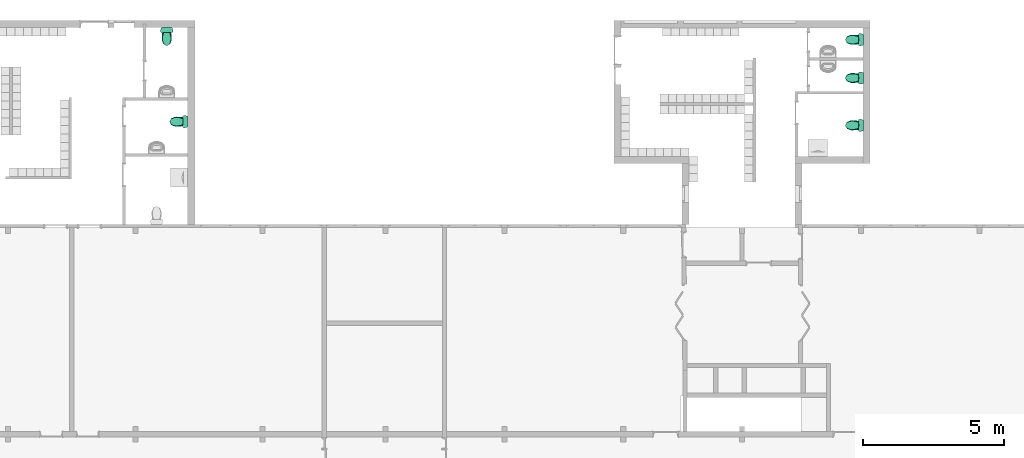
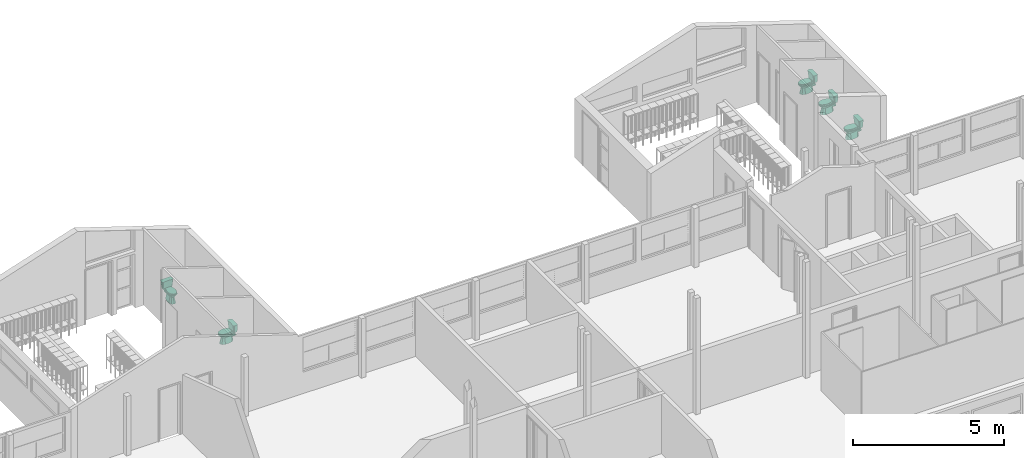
# One storey, part 38 of 48: 5 distribution flow elements.
"""IFC2X3 building model written with IfcOpenShell, lengths in millimetres."""

import ifcopenshell
import ifcopenshell.guid

model = None  # the IFC model being written
_history = None  # IfcOwnerHistory: only IFC2X3 demands one
_inside = {}  # id of a spatial element -> (the spatial element, [elements in it])
_under = {}  # id of a project, library or spatial element -> (it, [spatial elements below it])
_declared = {}  # id of a project -> (the project, [libraries it declares])
_typed = {}  # id of a type object -> (the type object, [elements of that type])
_made_of = {}  # id of a material, layer set ... -> (it, [elements and type objects made of it])


def new_model(schema):
    """Start an empty IFC model of exactly this schema.

    Asked for "IFC4X3", IfcOpenShell would pick the latest addendum, in which some entities
    have other attributes; the version numbers below select the first issue.
    IFC2X3 requires an IfcOwnerHistory on every rooted entity: one is made here for all.
    """
    global model, _history
    if schema == "IFC4X3":
        model = ifcopenshell.file(schema_version=(4, 3, 0, 0))
    else:
        model = ifcopenshell.file(schema=schema)
    _inside.clear()
    _under.clear()
    _declared.clear()
    _typed.clear()
    _made_of.clear()
    _history = None
    if model.schema == "IFC2X3":
        org = make("IfcOrganization", Name="unknown")
        user = make(
            "IfcPersonAndOrganization",
            ThePerson=make("IfcPerson", FamilyName="unknown"),
            TheOrganization=org,
        )
        app = make(
            "IfcApplication",
            ApplicationDeveloper=org,
            Version="unknown",
            ApplicationFullName="unknown",
            ApplicationIdentifier="unknown",
        )
        _history = make(
            "IfcOwnerHistory",
            OwningUser=user,
            OwningApplication=app,
            ChangeAction="ADDED",
            CreationDate=0,
        )
    return model


def make(cls, **values):
    """One entity of the class cls with the attributes given. An attribute that is None is left unset."""
    return model.create_entity(
        cls, **{name: value for name, value in values.items() if value is not None}
    )


def entity(cls, *values):
    """Any entity or typed value of the class cls, its attributes in the order of the schema. None: left unset."""
    e = model.create_entity(cls)
    for i, value in enumerate(values):
        if value is not None:
            e[i] = value
    return e


def rooted(cls, **values):
    """An entity with a GlobalId (a new one), such as an element, a storey or a relation."""
    return make(cls, GlobalId=ifcopenshell.guid.new(), OwnerHistory=_history, **values)


def si_unit(unit_type, name, prefix=None):
    """IfcSIUnit, for example si_unit("LENGTHUNIT", "METRE", prefix="MILLI")."""
    return make("IfcSIUnit", UnitType=unit_type, Prefix=prefix, Name=name)


def converted_unit(unit_type, name, factor, base, dimensions=None, offset=None):
    """IfcConversionBasedUnit, such as the inch: factor (a typed value) times the base unit."""
    return make(
        "IfcConversionBasedUnit"
        if offset is None
        else "IfcConversionBasedUnitWithOffset",
        ConversionOffset=offset,
        Dimensions=None
        if dimensions is None
        else entity("IfcDimensionalExponents", *dimensions),
        UnitType=unit_type,
        Name=name,
        ConversionFactor=make(
            "IfcMeasureWithUnit", ValueComponent=factor, UnitComponent=base
        ),
    )


def derived_unit(unit_type, elements):
    """IfcDerivedUnit: a product of units, each with its exponent."""
    return make(
        "IfcDerivedUnit",
        Elements=[
            make("IfcDerivedUnitElement", Unit=unit, Exponent=power)
            for unit, power in elements
        ],
        UnitType=unit_type,
    )


def money_unit(currency):
    """IfcMonetaryUnit."""
    return make("IfcMonetaryUnit", Currency=currency)


def assignment(units):
    """IfcUnitAssignment: the units of a project."""
    return None if units is None else make("IfcUnitAssignment", Units=units)


def point(xyz):
    """IfcCartesianPoint."""
    return None if xyz is None else make("IfcCartesianPoint", Coordinates=xyz)


def direction(xyz):
    """IfcDirection."""
    return None if xyz is None else make("IfcDirection", DirectionRatios=xyz)


def frame(location, z_axis=None, x_axis=None):
    """IfcAxis2Placement3D, a coordinate frame: its origin and axes. An axis left out is left unset."""
    return make(
        "IfcAxis2Placement3D",
        Location=point(location),
        Axis=direction(z_axis),
        RefDirection=direction(x_axis),
    )


def origin_with_axes():
    """The frame at (0, 0, 0) with the z axis (0, 0, 1) and the x axis (1, 0, 0) written out."""
    return frame((0.0, 0.0, 0.0), z_axis=(0.0, 0.0, 1.0), x_axis=(1.0, 0.0, 0.0))


def place(relative_to, where):
    """IfcLocalPlacement: puts the frame where relative to a parent placement (None: the world)."""
    return make(
        "IfcLocalPlacement", PlacementRelTo=relative_to, RelativePlacement=where
    )


def context(
    kind, dimensions, precision=None, world=None, true_north=None, identifier=None
):
    """IfcGeometricRepresentationContext, for example the 3D "Model" context."""
    return make(
        "IfcGeometricRepresentationContext",
        ContextIdentifier=identifier,
        ContextType=kind,
        CoordinateSpaceDimension=dimensions,
        Precision=precision,
        WorldCoordinateSystem=world,
        TrueNorth=true_north,
    )


def subcontext(parent, identifier, kind, view, scale=None):
    """IfcGeometricRepresentationSubContext, for example "Body" below "Model"."""
    return make(
        "IfcGeometricRepresentationSubContext",
        ContextIdentifier=identifier,
        ContextType=kind,
        ParentContext=parent,
        TargetScale=scale,
        TargetView=view,
    )


def project(units=None, contexts=None):
    """IfcProject with its units and contexts."""
    return rooted(
        "IfcProject",
        Name="project",
        RepresentationContexts=contexts,
        UnitsInContext=assignment(units),
    )


def spatial(cls, under=None, at=None, **own):
    """A site, building, storey or space (cls), placed at a placement, below another one or the project."""
    s = rooted(cls, ObjectPlacement=at, **own)
    if under is not None:
        _under.setdefault(under.id(), (under, []))[1].append(s)
    return s


def faces_of(points, faces, orient=None, outer=None):
    """IfcFace entities. A face is a list of loops; a loop is a list of indices into points, from 0.

    orient and outer hold one flag for each loop. By default every Orientation is true, the
    first loop of a face is its IfcFaceOuterBound and the others are IfcFaceBound.
    """
    made = []
    for i, loops in enumerate(faces):
        bounds = []
        for j, loop in enumerate(loops):
            is_outer = j == 0 if outer is None else outer[i][j]
            bounds.append(
                make(
                    "IfcFaceOuterBound" if is_outer else "IfcFaceBound",
                    Bound=make("IfcPolyLoop", Polygon=[points[k] for k in loop]),
                    Orientation=True if orient is None else orient[i][j],
                )
            )
        made.append(make("IfcFace", Bounds=bounds))
    return made


def open_shell(faces, orient=None, outer=None):
    """The faces of one IfcOpenShell. surface_model builds it on its shared points."""
    return ("IfcOpenShell", faces, orient, outer)


def faceted_brep(points, faces, orient=None, outer=None, voids=None):
    """IfcFacetedBrep: a solid bounded by flat faces; with voids (closed shells), ...WithVoids."""
    shared = [point(p) for p in points]
    hull = make("IfcClosedShell", CfsFaces=faces_of(shared, faces, orient, outer))
    if voids is None:
        return make("IfcFacetedBrep", Outer=hull)
    return make(
        "IfcFacetedBrepWithVoids",
        Outer=hull,
        Voids=[
            make(cls, CfsFaces=faces_of(shared, fs, o, b)) for cls, fs, o, b in voids
        ],
    )


def surface_model(cls, points, shells):
    """IfcFaceBasedSurfaceModel or IfcShellBasedSurfaceModel (cls): surfaces that need not close."""
    shared = [point(p) for p in points]
    made = [make(c, CfsFaces=faces_of(shared, fs, o, b)) for c, fs, o, b in shells]
    if cls == "IfcFaceBasedSurfaceModel":
        return make(cls, FbsmFaces=made)
    return make(cls, SbsmBoundary=made)


def shape(context_of_items, identifier, shape_type, items):
    """IfcShapeRepresentation: the items that make up one representation, for example the "Body"."""
    return make(
        "IfcShapeRepresentation",
        ContextOfItems=context_of_items,
        RepresentationIdentifier=identifier,
        RepresentationType=shape_type,
        Items=items,
    )


def source(mapping_origin, context_of_items, identifier, shape_type, items):
    """IfcRepresentationMap: a shape defined once, which mapped items show again and again."""
    return make(
        "IfcRepresentationMap",
        MappingOrigin=mapping_origin,
        MappedRepresentation=shape(context_of_items, identifier, shape_type, items),
    )


def transform(
    local_origin,
    x_axis=None,
    y_axis=None,
    z_axis=None,
    scale=None,
    scale2=None,
    scale3=None,
    uniform=True,
):
    """IfcCartesianTransformationOperator3D, or its non-uniform kind. x_axis, y_axis, z_axis: its Axis1, 2, 3."""
    if uniform:
        return make(
            "IfcCartesianTransformationOperator3D",
            Axis1=direction(x_axis),
            Axis2=direction(y_axis),
            LocalOrigin=point(local_origin),
            Scale=scale,
            Axis3=direction(z_axis),
        )
    return make(
        "IfcCartesianTransformationOperator3DnonUniform",
        Axis1=direction(x_axis),
        Axis2=direction(y_axis),
        LocalOrigin=point(local_origin),
        Scale=scale,
        Axis3=direction(z_axis),
        Scale2=scale2,
        Scale3=scale3,
    )


def mapped(mapping_source, mapping_target):
    """IfcMappedItem: shows the shape of a source again, moved by a transform."""
    return make(
        "IfcMappedItem", MappingSource=mapping_source, MappingTarget=mapping_target
    )


def made_of(thing, what):
    """Note that an element or type object is made of a material, layer set ...; save() writes the relation."""
    if what is not None:
        _made_of.setdefault(what.id(), (what, []))[1].append(thing)
    return thing


def type_object(cls, material=None, **own):
    """A type object (cls), such as IfcWallType, which elements share."""
    return made_of(rooted(cls, **own), material)


def element(
    cls,
    number,
    at=None,
    inside=None,
    cuts=None,
    type_object=None,
    material=None,
    context=None,
    identifier="Body",
    shape_type=None,
    held_by="IfcProductDefinitionShape",
    body=None,
    shapes=None,
    **own,
):
    """One element of the class cls, such as IfcWall. Its Tag is "e" and its number.

    at: its placement. inside: the storey or other place that contains it. cuts: it is an
    opening in that element (IfcRelVoidsElement). A single representation is given by context,
    identifier, shape_type and body (its items); several are given by shapes. held_by: the class
    of the entity that holds the representations. save() writes the other relations.
    """
    e = rooted(cls, Tag="e%d" % number, ObjectPlacement=at, **own)
    if body is not None:
        shapes = [shape(context, identifier, shape_type, body)]
    if shapes is not None:
        e.Representation = make(held_by, Representations=shapes)
    if inside is not None:
        _inside.setdefault(inside.id(), (inside, []))[1].append(e)
    if cuts is not None:
        rooted(
            "IfcRelVoidsElement", RelatingBuildingElement=cuts, RelatedOpeningElement=e
        )
    if type_object is not None:
        _typed.setdefault(type_object.id(), (type_object, []))[1].append(e)
    return made_of(e, material)


def aggregate(whole, parts):
    """IfcRelAggregates: a whole, such as a stair, and the parts it consists of."""
    return rooted("IfcRelAggregates", RelatingObject=whole, RelatedObjects=parts)


def save(model, path):
    """Write the relations noted so far, then the file.

    IfcRelAggregates (storeys below a building ...), IfcRelContainedInSpatialStructure (elements
    in a storey), IfcRelDefinesByType, IfcRelAssociatesMaterial and IfcRelDeclares: one each for
    every whole, place, type object, material and project.
    """
    for whole, parts in _under.values():
        aggregate(whole, parts)
    for where, things in _inside.values():
        rooted(
            "IfcRelContainedInSpatialStructure",
            RelatedElements=things,
            RelatingStructure=where,
        )
    for kind, things in _typed.values():
        rooted("IfcRelDefinesByType", RelatedObjects=things, RelatingType=kind)
    for what, things in _made_of.values():
        rooted("IfcRelAssociatesMaterial", RelatedObjects=things, RelatingMaterial=what)
    for by, libraries in _declared.values():
        rooted("IfcRelDeclares", RelatingContext=by, RelatedDefinitions=libraries)
    model.write(path)


model = new_model("IFC2X3")

# Units and contexts
model_context = context("Model", 3, precision=0.01, world=origin_with_axes(), true_north=direction((0.0, 1.0)))
body_context = subcontext(model_context, "Body", "Model", "MODEL_VIEW")
ifc_project = project(units=[si_unit("LENGTHUNIT", "METRE", prefix="MILLI"), si_unit("AREAUNIT", "SQUARE_METRE"), si_unit("VOLUMEUNIT", "CUBIC_METRE"), converted_unit("PLANEANGLEUNIT", "DEGREE", entity("IfcPlaneAngleMeasure", 0.0174532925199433), si_unit("PLANEANGLEUNIT", "RADIAN"), dimensions=[0, 0, 0, 0, 0, 0, 0]), money_unit("USD"), converted_unit("TIMEUNIT", "Year", entity("IfcTimeMeasure", 31557600.0), si_unit("TIMEUNIT", "SECOND"), dimensions=[0, 0, 1, 0, 0, 0, 0]), si_unit("MASSUNIT", "GRAM", prefix="KILO"), si_unit("THERMODYNAMICTEMPERATUREUNIT", "DEGREE_CELSIUS"), si_unit("LUMINOUSINTENSITYUNIT", "LUMEN"), si_unit("ENERGYUNIT", "JOULE", prefix="MEGA"), derived_unit("THERMALCONDUCTANCEUNIT", [(si_unit("POWERUNIT", "WATT"), 1), (si_unit("LENGTHUNIT", "METRE"), -1), (si_unit("THERMODYNAMICTEMPERATUREUNIT", "KELVIN"), -1)]), derived_unit("SPECIFICHEATCAPACITYUNIT", [(si_unit("ENERGYUNIT", "JOULE"), 1), (si_unit("MASSUNIT", "GRAM", prefix="KILO"), -1), (si_unit("THERMODYNAMICTEMPERATUREUNIT", "KELVIN"), -1)]), derived_unit("MASSDENSITYUNIT", [(si_unit("MASSUNIT", "GRAM", prefix="KILO"), 1), (si_unit("VOLUMEUNIT", "CUBIC_METRE"), -1)])], contexts=[model_context])

# Site, building, storey
site_placement = place(None, origin_with_axes())
site = spatial("IfcSite", under=ifc_project, at=site_placement, Name="Site", CompositionType="ELEMENT")
building_placement = place(site_placement, origin_with_axes())
building = spatial("IfcBuilding", under=site, at=building_placement, Name="Building", CompositionType="ELEMENT")
storey_placement = place(building_placement, frame((0.0, 0.0, 3300.0), z_axis=(0.0, 0.0, 1.0), x_axis=(1.0, 0.0, 0.0)))
storey = spatial("IfcBuildingStorey", under=building, at=storey_placement, Name="1 ETG", CompositionType="ELEMENT", Elevation=3300.0)

# Distribution flow elements
valve_type = type_object("IfcValveType", Name="WC", PredefinedType="USERDEFINED")
shared_shape = source(origin_with_axes(), body_context, "Body", "SurfaceModel", [
    faceted_brep([(-40.30508652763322, -205.7142857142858, 245.4332916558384), (-57.0, -205.7142857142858, 205.1282051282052), (-40.30508652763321, -205.7142857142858, 164.823118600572), (0.0, -205.7142857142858, 148.1282051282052), (40.30508652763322, -205.7142857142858, 164.823118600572), (57.00000000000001, -205.7142857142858, 205.1282051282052), (40.30508652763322, -205.7142857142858, 245.4332916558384), (0.0, -205.7142857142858, 262.1282051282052), (-40.30508652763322, 0.0, 245.4332916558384), (-57.0, 0.0, 205.1282051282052), (-40.30508652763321, 0.0, 164.823118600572), (0.0, 0.0, 148.1282051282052), (40.30508652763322, 0.0, 164.823118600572), (57.00000000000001, 0.0, 205.1282051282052), (40.30508652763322, 0.0, 245.4332916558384), (0.0, 0.0, 262.1282051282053)], [[[0, 1, 2, 3, 4, 5, 6, 7]], [[0, 8, 9, 1]], [[1, 9, 10, 2]], [[2, 10, 11, 3]], [[3, 11, 12, 4]], [[4, 12, 13, 5]], [[5, 13, 14, 6]], [[6, 14, 15, 7]], [[7, 15, 8, 0]], [[8, 15, 14, 13, 12, 11, 10, 9]]]),
    surface_model("IfcShellBasedSurfaceModel", [(-84.12941176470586, -541.2264773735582, 0.0), (-75.02254901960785, -425.689157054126, 235.8974358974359), (-123.3490196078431, -435.6917834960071, 0.0), (-47.80882352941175, -502.9639041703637, 235.8974358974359), (-71.04803921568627, -309.5589707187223, 235.8974358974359), (-120.4490196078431, -307.7678793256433, 0.0), (-95.01078431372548, -164.0364862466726, 0.0), (-31.65098039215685, -85.44312333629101, 0.0), (31.65098039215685, -85.44312333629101, 0.0), (95.01078431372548, -164.0364862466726, 0.0), (120.4490196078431, -307.7678793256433, 0.0), (123.3490196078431, -435.6917834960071, 0.0), (84.12941176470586, -541.2264773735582, 0.0), (0.0, -584.3319254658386, 0.0), (-41.58039215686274, -153.6, 235.8974358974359), (-13.7156862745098, -119.9417923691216, 235.8974358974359), (13.7156862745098, -119.9417923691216, 235.8974358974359), (41.58039215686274, -153.6, 235.8974358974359), (71.04803921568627, -309.5589707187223, 235.8974358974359), (75.02254901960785, -425.689157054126, 235.8974358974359), (47.80882352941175, -502.9639041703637, 235.8974358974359), (0.0, -527.4599467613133, 235.8974358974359)], [open_shell([[[0, 1, 2]], [[0, 3, 1]], [[2, 1, 4]], [[0, 2, 5, 6, 7, 8, 9, 10, 11, 12, 13]], [[13, 3, 0]], [[2, 4, 5]], [[5, 14, 6]], [[6, 15, 7]], [[7, 15, 16, 8]], [[8, 17, 9]], [[9, 18, 10]], [[10, 19, 11]], [[11, 20, 12]], [[12, 21, 13]], [[13, 21, 3]], [[5, 4, 14]], [[6, 14, 15]], [[8, 16, 17]], [[9, 17, 18]], [[10, 18, 19]], [[11, 19, 20]], [[12, 20, 21]]])]),
    surface_model("IfcShellBasedSurfaceModel", [(-47.80882352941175, -502.9639041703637, 235.8974358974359), (-170.6529411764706, -445.4820230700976, 369.2307692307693), (-75.02254901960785, -425.689157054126, 235.8974358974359), (-119.6803921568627, -578.6781188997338, 369.2307692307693), (-164.9843137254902, -294.0524578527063, 369.2307692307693), (-71.04803921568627, -309.5589707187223, 235.8974358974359), (-41.58039215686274, -153.6, 235.8974358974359), (-13.7156862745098, -119.9417923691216, 235.8974358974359), (13.7156862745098, -119.9417923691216, 235.8974358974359), (41.58039215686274, -153.6, 235.8974358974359), (71.04803921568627, -309.5589707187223, 235.8974358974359), (75.02254901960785, -425.689157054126, 235.8974358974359), (47.80882352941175, -502.9639041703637, 235.8974358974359), (0.0, -527.4599467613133, 235.8974358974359), (-101.8950980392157, -139.959538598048, 369.2307692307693), (-29.25392156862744, -84.95815439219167, 369.2307692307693), (29.25392156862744, -84.95815439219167, 369.2307692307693), (101.8950980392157, -139.959538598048, 369.2307692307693), (164.9843137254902, -294.051322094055, 369.2307692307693), (170.6529411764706, -445.4820230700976, 369.2307692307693), (119.6803921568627, -578.6781188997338, 369.2307692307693), (0.0, -640.0, 369.2307692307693)], [open_shell([[[0, 1, 2]], [[0, 3, 1]], [[2, 1, 4]], [[0, 2, 5, 6, 7, 8, 9, 10, 11, 12, 13]], [[13, 3, 0]], [[2, 4, 5]], [[5, 14, 6]], [[6, 15, 7]], [[7, 15, 16, 8]], [[8, 17, 9]], [[9, 18, 10]], [[10, 19, 11]], [[11, 20, 12]], [[12, 21, 13]], [[13, 21, 3]], [[5, 4, 14]], [[6, 14, 15]], [[8, 16, 17]], [[9, 17, 18]], [[10, 18, 19]], [[11, 19, 20]], [[12, 20, 21]]])]),
    surface_model("IfcShellBasedSurfaceModel", [(-45.41838235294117, -515.3940102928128, 276.923076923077), (-162.1202941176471, -470.5581430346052, 369.2307692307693), (-71.27142156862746, -455.1197075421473, 276.923076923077), (-113.6963725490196, -574.4510977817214, 369.2307692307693), (-156.7350980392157, -352.4430821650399, 369.2307692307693), (-67.49563725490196, -364.5381622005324, 276.923076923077), (-39.50137254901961, -242.890165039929, 276.923076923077), (-13.02990196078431, -216.6367630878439, 276.923076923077), (13.02990196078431, -216.6367630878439, 276.923076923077), (39.50137254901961, -242.890165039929, 276.923076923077), (67.49563725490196, -364.5381622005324, 276.923076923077), (71.27142156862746, -455.1197075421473, 276.923076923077), (45.41838235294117, -515.3940102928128, 276.923076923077), (0.0, -534.5009235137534, 276.923076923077), (-96.8003431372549, -232.2506051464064, 369.2307692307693), (-27.79122549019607, -189.3495254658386, 369.2307692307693), (27.79122549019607, -189.3495254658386, 369.2307692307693), (96.8003431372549, -232.2506051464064, 369.2307692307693), (156.7350980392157, -352.4421962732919, 369.2307692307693), (162.1202941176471, -470.5581430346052, 369.2307692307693), (113.6963725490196, -574.4510977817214, 369.2307692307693), (0.0, -622.282165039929, 369.2307692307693)], [open_shell([[[0, 1, 2]], [[0, 3, 1]], [[2, 1, 4]], [[0, 2, 5, 6, 7, 8, 9, 10, 11, 12, 13]], [[13, 3, 0]], [[2, 4, 5]], [[5, 14, 6]], [[6, 15, 7]], [[7, 15, 16, 8]], [[8, 17, 9]], [[9, 18, 10]], [[10, 19, 11]], [[11, 20, 12]], [[12, 21, 13]], [[13, 21, 3]], [[5, 4, 14]], [[6, 14, 15]], [[8, 16, 17]], [[9, 17, 18]], [[10, 18, 19]], [[11, 19, 20]], [[12, 20, 21]]])]),
    faceted_brep([(175.0058823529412, -398.0504702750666, 369.2307692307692), (170.6529411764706, -445.4820230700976, 369.2307692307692), (119.6803921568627, -578.6781188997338, 369.2307692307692), (0.0, -640.0, 369.2307692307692), (-119.6803921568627, -578.6781188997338, 369.2307692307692), (-170.6529411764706, -445.4820230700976, 369.2307692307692), (-175.0058823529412, -398.0504702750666, 369.2307692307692), (-173.5294117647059, -350.3815439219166, 369.2307692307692), (-141.1235294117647, 0.002271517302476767, 369.2307692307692), (141.121568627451, 0.002271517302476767, 369.2307692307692), (173.5294117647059, -350.3815439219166, 369.2307692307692), (-83.77627450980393, -540.2867506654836, 369.2307692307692), (0.0, -583.21206743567, 369.2307692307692), (83.77627450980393, -540.2867506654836, 369.2307692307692), (119.4570588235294, -447.0494835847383, 369.2307692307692), (122.5041176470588, -413.8473966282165, 369.2307692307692), (121.4705882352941, -380.4791481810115, 369.2307692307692), (98.78509803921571, -230.6142040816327, 369.2307692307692), (-98.78647058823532, -230.6142040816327, 369.2307692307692), (-121.4705882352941, -380.4791481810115, 369.2307692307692), (-122.5041176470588, -413.8473966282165, 369.2307692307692), (-119.4570588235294, -447.0494835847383, 369.2307692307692), (175.0058823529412, -398.0504702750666, 400.0), (170.6529411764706, -445.4820230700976, 400.0), (119.6803921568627, -578.6781188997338, 400.0), (0.0, -640.0, 400.0), (-119.6803921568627, -578.6781188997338, 400.0), (-170.6529411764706, -445.4820230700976, 400.0), (-175.0058823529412, -398.0504702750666, 400.0), (-173.5294117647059, -350.3815439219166, 400.0), (-141.1235294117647, 0.002271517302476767, 400.0), (141.121568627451, 0.002271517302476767, 400.0), (173.5294117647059, -350.3815439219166, 400.0), (0.0, -583.21206743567, 400.0), (-83.77627450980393, -540.2867506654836, 400.0), (83.77627450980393, -540.2867506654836, 400.0), (119.4570588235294, -447.0494835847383, 400.0), (122.5041176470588, -413.8473966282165, 400.0), (121.4705882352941, -380.4791481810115, 400.0), (98.78509803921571, -230.6142040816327, 400.0), (-98.78647058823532, -230.6142040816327, 400.0), (-121.4705882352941, -380.4791481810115, 400.0), (-122.5041176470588, -413.8473966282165, 400.0), (-119.4570588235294, -447.0494835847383, 400.0)], [[[0, 1, 2, 3, 4, 5, 6, 7, 8, 9, 10], [11, 12, 13, 14, 15, 16, 17, 18, 19, 20, 21]], [[22, 23, 1, 0]], [[23, 24, 2, 1]], [[24, 25, 3, 2]], [[25, 26, 4, 3]], [[26, 27, 5, 4]], [[27, 28, 6, 5]], [[28, 29, 7, 6]], [[29, 30, 8, 7]], [[30, 31, 9, 8]], [[31, 32, 10, 9]], [[32, 22, 0, 10]], [[33, 12, 11, 34]], [[35, 13, 12, 33]], [[36, 14, 13, 35]], [[37, 15, 14, 36]], [[38, 16, 15, 37]], [[39, 17, 16, 38]], [[40, 18, 17, 39]], [[41, 19, 18, 40]], [[42, 20, 19, 41]], [[43, 21, 20, 42]], [[34, 11, 21, 43]], [[31, 30, 29, 28, 27, 26, 25, 24, 23, 22, 32], [40, 39, 38, 37, 36, 35, 33, 34, 43, 42, 41]]]),
    faceted_brep([(-170.4738719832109, -445.482713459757, 400.0), (-166.4663168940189, -302.2015893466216, 400.0), (-118.2121021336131, -172.9329743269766, 400.0), (118.2121021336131, -172.9329743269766, 400.0), (166.4663168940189, -302.2015893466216, 400.0), (170.4738719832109, -445.482713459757, 400.0), (119.5548093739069, -578.6783365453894, 400.0), (0.0, -640.0, 400.0), (-119.5548093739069, -578.6783365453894, 400.0), (-87.07689659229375, -470.8529844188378, 400.0), (-76.48880040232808, -500.6600804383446, 400.0), (-62.0685687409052, -525.0585284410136, 400.0), (-44.26109835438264, -542.1791505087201, 400.0), (-23.02579943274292, -553.0312015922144, 400.0), (0.0, -556.7479615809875, 400.0), (23.02579943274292, -553.0312015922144, 400.0), (44.26109835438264, -542.1791505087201, 400.0), (62.06856874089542, -525.0585284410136, 400.0), (76.48880040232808, -500.6600804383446, 400.0), (87.07689659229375, -470.8529844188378, 400.0), (94.51085540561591, -436.8872036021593, 400.0), (97.71606496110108, -402.0552291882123, 400.0), (96.61425296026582, -366.5633495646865, 400.0), (90.99294096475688, -327.7648838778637, 400.0), (81.32895397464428, -289.5296252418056, 400.0), (68.75412876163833, -255.390084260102, 400.0), (-68.75448552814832, -255.390084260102, 400.0), (-81.3288631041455, -289.5292657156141, 400.0), (-90.99294096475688, -327.7648838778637, 400.0), (-96.61425296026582, -366.5633495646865, 400.0), (-97.71606496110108, -402.0552291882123, 400.0), (-94.51085540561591, -436.8872036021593, 400.0), (-158.5902763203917, -302.7808242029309, 420.0000000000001), (-108.940468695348, -172.9329743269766, 420.0000000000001), (108.940468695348, -172.9329743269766, 420.0000000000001), (158.5902763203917, -302.7808242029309, 420.0000000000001), (162.8034977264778, -443.8937927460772, 420.0000000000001), (113.7912556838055, -572.5997778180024, 420.0000000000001), (0.0, -630.9650719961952, 420.0000000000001), (-113.7912556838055, -572.5997778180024, 420.0000000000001), (-162.8034977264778, -443.8937927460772, 420.0000000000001), (-76.48880040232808, -500.6600804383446, 420.0000000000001), (-87.07689659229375, -470.8529844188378, 420.0000000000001), (-62.0685687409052, -525.0585284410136, 420.0000000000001), (-44.26109835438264, -542.1791505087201, 420.0000000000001), (-23.02579943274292, -553.0312015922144, 420.0000000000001), (0.0, -556.7479615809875, 420.0000000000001), (23.02579943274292, -553.0312015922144, 420.0000000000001), (44.26109835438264, -542.1791505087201, 420.0000000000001), (62.06856874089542, -525.0585284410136, 420.0000000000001), (76.48880040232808, -500.6600804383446, 420.0000000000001), (87.07689659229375, -470.8529844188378, 420.0000000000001), (94.51085540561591, -436.8872036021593, 420.0000000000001), (97.71606496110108, -402.0552291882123, 420.0000000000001), (96.61425296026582, -366.5633495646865, 420.0000000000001), (90.99294096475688, -327.7648838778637, 420.0000000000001), (81.32895397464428, -289.5296252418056, 420.0000000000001), (68.75412876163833, -255.390084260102, 420.0000000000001), (-68.75448552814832, -255.390084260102, 420.0000000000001), (-81.3288631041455, -289.5292657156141, 420.0000000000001), (-90.99294096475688, -327.7648838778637, 420.0000000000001), (-96.61425296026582, -366.5633495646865, 420.0000000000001), (-97.71606496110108, -402.0552291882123, 420.0000000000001), (-94.51085540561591, -436.8872036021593, 420.0000000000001)], [[[0, 1, 2, 3, 4, 5, 6, 7, 8], [9, 10, 11, 12, 13, 14, 15, 16, 17, 18, 19, 20, 21, 22, 23, 24, 25, 26, 27, 28, 29, 30, 31]], [[0, 32, 1]], [[1, 33, 2]], [[3, 2, 33, 34]], [[3, 35, 4]], [[4, 36, 5]], [[5, 37, 6]], [[6, 38, 7]], [[7, 39, 8]], [[8, 40, 0]], [[41, 10, 9, 42]], [[43, 11, 10, 41]], [[44, 12, 11, 43]], [[45, 13, 12, 44]], [[46, 14, 13, 45]], [[47, 15, 14, 46]], [[48, 16, 15, 47]], [[49, 17, 16, 48]], [[50, 18, 17, 49]], [[51, 19, 18, 50]], [[52, 20, 19, 51]], [[53, 21, 20, 52]], [[54, 22, 21, 53]], [[55, 23, 22, 54]], [[56, 24, 23, 55]], [[57, 25, 24, 56]], [[58, 26, 25, 57]], [[59, 27, 26, 58]], [[60, 28, 27, 59]], [[61, 29, 28, 60]], [[62, 30, 29, 61]], [[63, 31, 30, 62]], [[42, 9, 31, 63]], [[0, 40, 32]], [[1, 32, 33]], [[34, 33, 32, 40, 39, 38, 37, 36, 35], [60, 59, 58, 57, 56, 55, 54, 53, 52, 51, 50, 49, 48, 47, 46, 45, 44, 43, 41, 42, 63, 62, 61]], [[3, 34, 35]], [[4, 35, 36]], [[5, 36, 37]], [[6, 37, 38]], [[7, 38, 39]], [[8, 39, 40]]]),
    faceted_brep([(107.5993284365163, -565.0492811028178, 420.0000000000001), (37.93662119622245, -624.1357794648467, 440.0000000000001), (39.85813221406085, -615.7891187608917, 420.0000000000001), (102.412130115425, -572.5997778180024, 440.0000000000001), (0.0, -630.9650719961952, 440.0000000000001), (0.0, -622.9636806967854, 420.0000000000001), (-39.85813221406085, -615.7891187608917, 420.0000000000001), (-107.5993284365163, -565.0492811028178, 420.0000000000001), (-144.3513116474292, -491.7260985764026, 420.0000000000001), (-157.3400209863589, -398.0513290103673, 420.0000000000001), (-156.01259181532, -350.3825718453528, 420.0000000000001), (-139.3844700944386, -255.2506291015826, 420.0000000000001), (-99.17339219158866, -172.9329743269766, 420.0000000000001), (99.17339219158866, -172.9329743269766, 420.0000000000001), (139.3844700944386, -255.2506291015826, 420.0000000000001), (156.01259181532, -350.3825718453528, 420.0000000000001), (157.3400209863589, -398.0513290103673, 420.0000000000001), (144.3504302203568, -491.7260985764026, 420.0000000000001), (137.6912486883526, -488.8969338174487, 440.0000000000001), (150.3317943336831, -397.7344534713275, 440.0000000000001), (149.0405036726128, -351.3456917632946, 440.0000000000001), (132.0192654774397, -255.5152599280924, 440.0000000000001), (98.04642182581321, -172.9329743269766, 440.0000000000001), (-98.04642182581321, -172.9329743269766, 440.0000000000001), (-132.0192654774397, -255.5152599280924, 440.0000000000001), (-149.0405036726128, -351.3456917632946, 440.0000000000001), (-150.3317943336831, -397.7344534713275, 440.0000000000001), (-137.6912486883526, -488.8969338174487, 440.0000000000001), (-102.412130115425, -572.5997778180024, 440.0000000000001), (-37.93662119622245, -624.1357794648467, 440.0000000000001)], [[[0, 1, 2]], [[0, 3, 1]], [[2, 1, 4]], [[0, 2, 5, 6, 7, 8, 9, 10, 11, 12, 13, 14, 15, 16, 17]], [[17, 3, 0]], [[3, 18, 19, 20, 21, 22, 23, 24, 25, 26, 27, 28, 29, 4, 1]], [[2, 4, 5]], [[5, 29, 6]], [[6, 28, 7]], [[7, 27, 8]], [[8, 26, 9]], [[9, 25, 10]], [[10, 24, 11]], [[11, 23, 12]], [[12, 23, 22, 13]], [[13, 21, 14]], [[14, 20, 15]], [[15, 19, 16]], [[16, 18, 17]], [[17, 18, 3]], [[16, 19, 18]], [[15, 20, 19]], [[14, 21, 20]], [[13, 22, 21]], [[11, 24, 23]], [[10, 25, 24]], [[9, 26, 25]], [[8, 27, 26]], [[7, 28, 27]], [[6, 29, 28]], [[5, 4, 29]]]),
    faceted_brep([(-0.001, -126.7509859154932, 400.0), (-38.86899999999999, -165.3933112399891, 700.0), (-40.757, -127.7727036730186, 400.0), (-0.001, -164.4195802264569, 700.0), (-77.64, -168.3115051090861, 700.0), (-81.40999999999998, -130.8328583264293, 400.0), (-121.859, -135.925451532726, 400.0), (-162.002, -143.0364871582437, 400.0), (-168.528, -142.899524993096, 400.0), (-174.366, -139.9803314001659, 400.0), (-178.389, -134.8427506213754, 400.0), (-179.822, -128.4765092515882, 400.0), (-172.647, -96.35738193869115, 400.0), (-165.467, -64.23825462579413, 400.0), (-158.288, -32.11912731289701, 400.0), (-151.113, 0.0, 400.0), (151.111, 0.0, 400.0), (158.288, -32.11912731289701, 400.0), (165.466, -64.23825462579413, 400.0), (172.643, -96.35738193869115, 400.0), (179.821, -128.4765092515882, 400.0), (178.387, -134.8427506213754, 400.0), (174.364, -139.9803314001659, 400.0), (168.526, -142.899524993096, 400.0), (162.0, -143.0364871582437, 400.0), (121.857, -135.925451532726, 400.0), (81.40799999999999, -130.8328583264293, 400.0), (40.755, -127.7727036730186, 400.0), (38.86799999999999, -165.3933112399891, 700.0), (77.638, -168.3115051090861, 700.0), (116.214, -173.1681634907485, 700.0), (154.499, -179.9502899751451, 700.0), (177.569, -179.4664236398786, 700.0), (198.207, -169.1472742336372, 700.0), (212.431, -150.9822921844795, 700.0), (217.499, -128.4765092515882, 700.0), (215.545, -95.22269538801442, 700.0), (209.709, -62.42675504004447, 700.0), (200.072, -30.53956365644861, 700.0), (186.767, 0.0, 700.0), (-186.769, 0.0, 700.0), (-200.074, -30.53956365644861, 700.0), (-209.711, -62.42675504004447, 700.0), (-215.547, -95.22269538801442, 700.0), (-217.501, -128.4765092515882, 700.0), (-212.433, -150.9822921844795, 700.0), (-198.209, -169.1472742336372, 700.0), (-177.571, -179.4664236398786, 700.0), (-154.501, -179.9502899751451, 700.0), (-116.216, -173.1681634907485, 700.0)], [[[0, 1, 2]], [[0, 3, 1]], [[2, 1, 4]], [[0, 2, 5, 6, 7, 8, 9, 10, 11, 12, 13, 14, 15, 16, 17, 18, 19, 20, 21, 22, 23, 24, 25, 26, 27]], [[27, 3, 0]], [[3, 28, 29, 30, 31, 32, 33, 34, 35, 36, 37, 38, 39, 40, 41, 42, 43, 44, 45, 46, 47, 48, 49, 4, 1]], [[2, 4, 5]], [[5, 49, 6]], [[6, 48, 7]], [[7, 47, 8]], [[8, 46, 9]], [[9, 45, 10]], [[10, 44, 11]], [[11, 43, 12]], [[12, 42, 13]], [[13, 41, 14]], [[14, 40, 15]], [[15, 40, 39, 16]], [[16, 38, 17]], [[17, 37, 18]], [[18, 36, 19]], [[19, 35, 20]], [[20, 34, 21]], [[21, 33, 22]], [[22, 32, 23]], [[23, 31, 24]], [[24, 30, 25]], [[25, 29, 26]], [[26, 28, 27]], [[27, 28, 3]], [[26, 29, 28]], [[25, 30, 29]], [[24, 31, 30]], [[23, 32, 31]], [[22, 33, 32]], [[21, 34, 33]], [[20, 35, 34]], [[19, 36, 35]], [[18, 37, 36]], [[17, 38, 37]], [[16, 39, 38]], [[14, 41, 40]], [[13, 42, 41]], [[12, 43, 42]], [[11, 44, 43]], [[10, 45, 44]], [[9, 46, 45]], [[8, 47, 46]], [[7, 48, 47]], [[6, 49, 48]], [[5, 4, 49]]]),
])
for number, where, z_axis, x_axis, name in (
    (1, (42350.01640173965, 25549.04253407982, 100.0000000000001), (0.0, 0.0, 1.0), (0.0, -1.0, 0.0), "FU - 001"),
    (2, (41609.01592660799, 28874.87497506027, 100.0000000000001), (0.0, 0.0, 1.0), (1.0, 0.0, 0.0), "FU - 001"),
    (3, (66239.99988640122, 25419.70079586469, 100.0000000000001), (0.0, 0.0, 1.0), (1.359925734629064e-07, -0.9999999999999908, 0.0), "FU - 001"),
    (4, (66239.99925018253, 28446.83912413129, 100.0000000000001), (0.0, 0.0, 1.0), (0.0, -1.0, 0.0), "FU - 001"),
    (5, (66239.99955781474, 27092.70082009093, 100.0000000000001), (0.0, 0.0, 1.0), (0.0, -1.0, 0.0), "FU - 001"),
):
    element("IfcDistributionFlowElement", number, at=place(storey_placement, frame(where, z_axis=z_axis, x_axis=x_axis)), inside=storey, type_object=valve_type, Name=name, ObjectType="Distribution Flow Element", context=body_context, shape_type="MappedRepresentation", body=[
        mapped(shared_shape, transform((0.0, 0.0, 0.0))),
    ])

save(model, "model.ifc")
